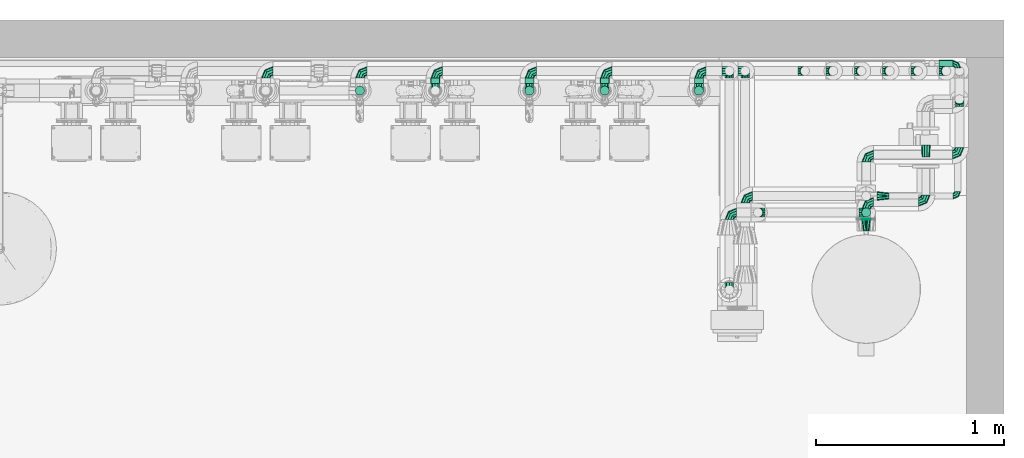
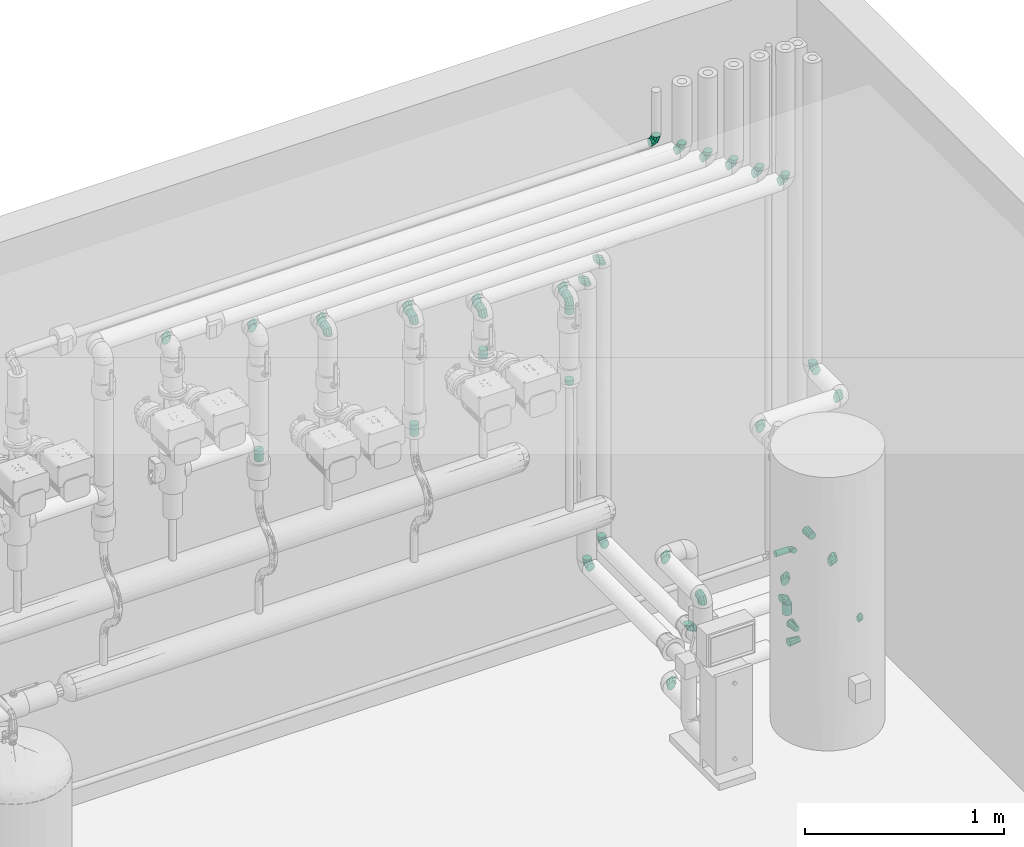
# One storey, part 89 of 94: 35 flow fittings, 12 flow segments.
"""IFC2X3 building model written with IfcOpenShell, lengths in millimetres."""

from ifc_helpers import new_model, entity, si_unit, converted_unit, derived_unit, direction, frame, frame_2d, origin, origin_2d_with_axis, place, context, subcontext, project, spatial, circle, extrude, faceted_brep, source, transform, mapped, material, type_object, type_shapes, element, save


model = new_model("IFC2X3")

# Units and contexts
model_context = context("Model", 3, precision=0.01, world=origin(), true_north=direction((6.123031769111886e-17, 1.0)))
body_context = subcontext(model_context, "Body", "Model", "MODEL_VIEW")
ifc_project = project(units=[si_unit("LENGTHUNIT", "METRE", prefix="MILLI"), si_unit("AREAUNIT", "SQUARE_METRE"), si_unit("VOLUMEUNIT", "CUBIC_METRE"), converted_unit("PLANEANGLEUNIT", "DEGREE", entity("IfcRatioMeasure", 0.017453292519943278), si_unit("PLANEANGLEUNIT", "RADIAN"), dimensions=[0, 0, 0, 0, 0, 0, 0]), si_unit("MASSUNIT", "GRAM", prefix="KILO"), derived_unit("MASSDENSITYUNIT", [(si_unit("MASSUNIT", "GRAM", prefix="KILO"), 1), (si_unit("LENGTHUNIT", "METRE"), -3)]), derived_unit("IONCONCENTRATIONUNIT", [(si_unit("MASSUNIT", "GRAM", prefix="KILO"), 1), (si_unit("LENGTHUNIT", "METRE"), -3)]), derived_unit("MOMENTOFINERTIAUNIT", [(si_unit("LENGTHUNIT", "METRE"), 4)]), si_unit("TIMEUNIT", "SECOND"), si_unit("FREQUENCYUNIT", "HERTZ"), si_unit("THERMODYNAMICTEMPERATUREUNIT", "DEGREE_CELSIUS"), derived_unit("THERMALTRANSMITTANCEUNIT", [(si_unit("MASSUNIT", "GRAM", prefix="KILO"), 1), (si_unit("THERMODYNAMICTEMPERATUREUNIT", "KELVIN"), -1), (si_unit("TIMEUNIT", "SECOND"), -3)]), derived_unit("THERMALCONDUCTANCEUNIT", [(si_unit("MASSUNIT", "GRAM", prefix="KILO"), 1), (si_unit("THERMODYNAMICTEMPERATUREUNIT", "KELVIN"), -1), (si_unit("TIMEUNIT", "SECOND"), -3), (si_unit("LENGTHUNIT", "METRE"), 1)]), derived_unit("VOLUMETRICFLOWRATEUNIT", [(si_unit("LENGTHUNIT", "METRE"), 3), (si_unit("TIMEUNIT", "SECOND"), -1)]), derived_unit("MASSFLOWRATEUNIT", [(si_unit("MASSUNIT", "GRAM", prefix="KILO"), 1), (si_unit("TIMEUNIT", "SECOND"), -1)]), derived_unit("ROTATIONALFREQUENCYUNIT", [(si_unit("TIMEUNIT", "SECOND"), -1)]), si_unit("ELECTRICCURRENTUNIT", "AMPERE"), si_unit("ELECTRICVOLTAGEUNIT", "VOLT"), si_unit("POWERUNIT", "WATT"), si_unit("FORCEUNIT", "NEWTON", prefix="KILO"), si_unit("ILLUMINANCEUNIT", "LUX"), si_unit("LUMINOUSFLUXUNIT", "LUMEN"), si_unit("LUMINOUSINTENSITYUNIT", "CANDELA"), derived_unit("USERDEFINED", [(si_unit("MASSUNIT", "GRAM", prefix="KILO"), -1), (si_unit("LENGTHUNIT", "METRE"), -2), (si_unit("TIMEUNIT", "SECOND"), 3), (si_unit("LUMINOUSFLUXUNIT", "LUMEN"), 1)]), derived_unit("USERDEFINED", [(si_unit("MASSUNIT", "GRAM", prefix="KILO"), 1), (si_unit("TIMEUNIT", "SECOND"), -3), (si_unit("LENGTHUNIT", "METRE"), 3), (si_unit("ELECTRICCURRENTUNIT", "AMPERE"), -2)]), derived_unit("SOUNDPOWERUNIT", [(si_unit("MASSUNIT", "GRAM", prefix="KILO"), 1), (si_unit("TIMEUNIT", "SECOND"), -3), (si_unit("LENGTHUNIT", "METRE"), 2)]), derived_unit("SOUNDPRESSUREUNIT", [(si_unit("MASSUNIT", "GRAM", prefix="KILO"), 1), (si_unit("LENGTHUNIT", "METRE"), -1), (si_unit("TIMEUNIT", "SECOND"), -2)]), derived_unit("LINEARVELOCITYUNIT", [(si_unit("LENGTHUNIT", "METRE"), 1), (si_unit("TIMEUNIT", "SECOND"), -1)]), si_unit("PRESSUREUNIT", "PASCAL"), derived_unit("USERDEFINED", [(si_unit("MASSUNIT", "GRAM", prefix="KILO"), 1), (si_unit("LENGTHUNIT", "METRE"), -2), (si_unit("TIMEUNIT", "SECOND"), -2)]), derived_unit("LINEARFORCEUNIT", [(si_unit("MASSUNIT", "GRAM", prefix="KILO"), 1), (si_unit("TIMEUNIT", "SECOND"), -2)]), derived_unit("PLANARFORCEUNIT", [(si_unit("MASSUNIT", "GRAM", prefix="KILO"), 1), (si_unit("LENGTHUNIT", "METRE"), -1), (si_unit("TIMEUNIT", "SECOND"), -2)]), derived_unit("SPECIFICHEATCAPACITYUNIT", [(si_unit("THERMODYNAMICTEMPERATUREUNIT", "KELVIN"), -1), (si_unit("LENGTHUNIT", "METRE"), 2), (si_unit("TIMEUNIT", "SECOND"), -2)]), derived_unit("HEATINGVALUEUNIT", [(si_unit("LENGTHUNIT", "METRE"), 2), (si_unit("TIMEUNIT", "SECOND"), -2)]), derived_unit("VAPORPERMEABILITYUNIT", [(si_unit("LENGTHUNIT", "METRE"), -1), (si_unit("TIMEUNIT", "SECOND"), 1)]), derived_unit("DYNAMICVISCOSITYUNIT", [(si_unit("MASSUNIT", "GRAM", prefix="KILO"), 1), (si_unit("TIMEUNIT", "SECOND"), -1), (si_unit("LENGTHUNIT", "METRE"), -1)]), derived_unit("THERMALEXPANSIONCOEFFICIENTUNIT", [(si_unit("THERMODYNAMICTEMPERATUREUNIT", "KELVIN"), -1)]), derived_unit("MODULUSOFELASTICITYUNIT", [(si_unit("MASSUNIT", "GRAM", prefix="KILO"), 1), (si_unit("LENGTHUNIT", "METRE"), -1), (si_unit("TIMEUNIT", "SECOND"), -2)]), derived_unit("ISOTHERMALMOISTURECAPACITYUNIT", [(si_unit("LENGTHUNIT", "METRE"), 3), (si_unit("MASSUNIT", "GRAM", prefix="KILO"), -1)]), derived_unit("MOISTUREDIFFUSIVITYUNIT", [(si_unit("TIMEUNIT", "SECOND"), -1), (si_unit("LENGTHUNIT", "METRE"), 2)])], contexts=[model_context])

# Site, building, storey
site_placement = place(None, origin())
site = spatial("IfcSite", under=ifc_project, at=site_placement, Name="Default", CompositionType="ELEMENT")
building_placement = place(site_placement, origin())
building = spatial("IfcBuilding", under=site, at=building_placement, CompositionType="ELEMENT")
storey_placement = place(building_placement, origin())
storey = spatial("IfcBuildingStorey", under=building, at=storey_placement, Name="Niveau 0", CompositionType="ELEMENT", Elevation=0.0)

# Flow segments
pipe_segment_type_1 = type_object("IfcPipeSegmentType", Name="Canalisation:Bride acier", PredefinedType="NOTDEFINED")
flow_segment_1_placement = place(storey_placement, origin())
element("IfcFlowSegment", 1, at=flow_segment_1_placement, inside=storey, type_object=pipe_segment_type_1, Name="Canalisation:Bride acier", ObjectType="Canalisation:Bride acier", context=body_context, shape_type="SweptSolid", body=[
    extrude(circle(Radius=24.13, at=origin_2d_with_axis()), frame((-8072.145865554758, 9960.470546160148, 2450.0), z_axis=(0.0, 1.0, 0.0), x_axis=(1.0, 0.0, 0.0)), (0.0, 0.0, 1.0), 28.375078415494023),
])
flow_segment_2_placement = place(storey_placement, origin())
element("IfcFlowSegment", 2, at=flow_segment_2_placement, inside=storey, type_object=pipe_segment_type_1, Name="Canalisation:Bride acier", ObjectType="Canalisation:Bride acier", context=body_context, shape_type="SweptSolid", body=[
    extrude(circle(Radius=24.13, at=origin_2d_with_axis()), frame((-8072.145865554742, 9922.470546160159, 1727.6034575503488)), (0.0, 0.0, 1.0), 70.12670509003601),
])
flow_segment_3_placement = place(storey_placement, origin())
element("IfcFlowSegment", 3, at=flow_segment_3_placement, inside=storey, type_object=pipe_segment_type_1, Name="Canalisation:Bride acier", ObjectType="Canalisation:Bride acier", context=body_context, shape_type="SweptSolid", body=[
    extrude(circle(Radius=24.13, at=origin_2d_with_axis()), frame((-8572.145865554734, 9960.470546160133, 2550.0), z_axis=(0.0, 1.0, 0.0), x_axis=(1.0, 0.0, 0.0)), (0.0, 0.0, 1.0), 28.375078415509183),
])
flow_segment_4_placement = place(storey_placement, origin())
element("IfcFlowSegment", 4, at=flow_segment_4_placement, inside=storey, type_object=pipe_segment_type_1, Name="Canalisation:Bride acier", ObjectType="Canalisation:Bride acier", context=body_context, shape_type="SweptSolid", body=[
    extrude(circle(Radius=24.13, at=frame_2d((0.0, -2.7071678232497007e-13), x_axis=(1.0, 0.0))), frame((-7672.1458655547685, 9960.470546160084, 2350.0), z_axis=(0.0, 1.0, 0.0), x_axis=(1.0, 0.0, 0.0)), (0.0, 0.0, 1.0), 28.37507841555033),
])
flow_segment_5_placement = place(storey_placement, origin())
element("IfcFlowSegment", 5, at=flow_segment_5_placement, inside=storey, type_object=pipe_segment_type_1, Name="Canalisation:Bride acier", ObjectType="Canalisation:Bride acier", context=body_context, shape_type="SweptSolid", body=[
    extrude(circle(Radius=24.13, at=origin_2d_with_axis()), frame((-7672.145865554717, 9922.470546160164, 2062.7301626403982)), (0.0, 0.0, 1.0), 51.48731568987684),
])
flow_segment_6_placement = place(storey_placement, origin())
element("IfcFlowSegment", 6, at=flow_segment_6_placement, inside=storey, type_object=pipe_segment_type_1, Name="Canalisation:Bride acier", ObjectType="Canalisation:Bride acier", context=body_context, shape_type="SweptSolid", body=[
    extrude(circle(Radius=24.13, at=frame_2d((0.0, -2.707167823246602e-13), x_axis=(1.0, 0.0))), frame((-7172.1458655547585, 9960.470546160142, 2250.0), z_axis=(0.0, 1.0, 0.0), x_axis=(1.0, 0.0, 0.0)), (0.0, 0.0, 1.0), 28.375078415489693),
])
flow_segment_7_placement = place(storey_placement, origin())
element("IfcFlowSegment", 7, at=flow_segment_7_placement, inside=storey, type_object=pipe_segment_type_1, Name="Canalisation:Bride acier", ObjectType="Canalisation:Bride acier", context=body_context, shape_type="SweptSolid", body=[
    extrude(circle(Radius=24.13, at=origin_2d_with_axis()), frame((-7172.145865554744, 9922.470546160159, 1727.60345755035)), (0.0, 0.0, 1.0), 25.126705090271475),
])
flow_segment_8_placement = place(storey_placement, origin())
element("IfcFlowSegment", 8, at=flow_segment_8_placement, inside=storey, type_object=pipe_segment_type_1, Name="Canalisation:Bride acier", ObjectType="Canalisation:Bride acier", context=body_context, shape_type="SweptSolid", body=[
    extrude(circle(Radius=24.13, at=origin_2d_with_axis()), frame((-6284.2344600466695, 9275.477679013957, 395.8782212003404)), (0.0, 0.0, 1.0), 65.12177879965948),
])
flow_segment_9_placement = place(storey_placement, origin())
element("IfcFlowSegment", 9, at=flow_segment_9_placement, inside=storey, type_object=pipe_segment_type_1, Name="Canalisation:Bride acier", ObjectType="Canalisation:Bride acier", context=body_context, shape_type="SweptSolid", body=[
    extrude(circle(Radius=24.13, at=origin_2d_with_axis()), frame((-7172.1458655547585, 9922.470546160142, 2159.217478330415)), (0.0, 0.0, 1.0), 52.78252166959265),
])
flow_segment_10_placement = place(storey_placement, origin())
element("IfcFlowSegment", 10, at=flow_segment_10_placement, inside=storey, type_object=pipe_segment_type_1, Name="Canalisation:Bride acier", ObjectType="Canalisation:Bride acier", context=body_context, shape_type="SweptSolid", body=[
    extrude(circle(Radius=24.13, at=origin_2d_with_axis()), frame((-6284.23446004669, 9237.47767933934, 357.87324837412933), z_axis=(0.0, 0.9999997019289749, -0.0007721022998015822), x_axis=(-1.0, 0.0, 0.0)), (0.0, 0.0, 1.0), 4.2071809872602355),
])
flow_segment_11_placement = place(storey_placement, origin())
element("IfcFlowSegment", 11, at=flow_segment_11_placement, inside=storey, type_object=pipe_segment_type_1, Name="Canalisation:Bride acier", ObjectType="Canalisation:Bride acier", context=body_context, shape_type="SweptSolid", body=[
    extrude(circle(Radius=24.13, at=origin_2d_with_axis()), frame((-8972.145865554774, 9922.470546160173, 1887.730162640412)), (0.0, 0.0, 1.0), 65.8598027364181),
])

# Flow fittings
ifc_material = material(Name="<Unnamed>")
pipe_fitting_type_1 = type_object("IfcPipeFittingType", Name="Coude - Générique:Standard", PredefinedType="NOTDEFINED", material=ifc_material)
shared_shape_1 = source(origin(), body_context, "Body", "Brep", [
    faceted_brep([(5.946686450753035, -5.946686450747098, 0.0), (2.6853405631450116, -2.685340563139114, -14.195013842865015), (19.537760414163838, 38.0, -14.195013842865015), (24.1500000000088, 38.0, 0.0), (-5.852973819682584, 5.852973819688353, -22.968014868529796), (7.462760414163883, 38.0, -22.968014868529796), (-16.40691081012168, 16.40691081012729, -22.96801486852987), (-7.462760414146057, 38.0, -22.96801486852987), (-24.94522519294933, 24.94522519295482, -14.195013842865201), (-19.537760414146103, 38.0, -14.195013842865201), (-28.206571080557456, 28.206571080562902, 0.0), (-24.149999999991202, 38.0, 0.0), (-24.945225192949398, 24.945225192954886, 14.195013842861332), (-19.5377604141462, 38.0, 14.195013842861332), (-16.406910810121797, 16.40691081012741, 22.968014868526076), (-7.462760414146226, 38.0, 22.968014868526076), (-5.852973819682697, 5.852973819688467, 22.968014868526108), (7.462760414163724, 38.0, 22.968014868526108), (2.6853405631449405, -2.685340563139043, 14.195013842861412), (19.53776041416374, 38.0, 14.195013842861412), (-38.0, -24.150000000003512, 0.0), (-38.0, -19.53776041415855, -14.195013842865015), (-38.0, -7.462760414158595, -22.968014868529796), (-38.0, 7.462760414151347, -22.96801486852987), (-38.0, 19.537760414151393, -14.195013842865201), (-38.0, 24.149999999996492, 0.0), (-38.0, 19.537760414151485, 14.195013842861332), (-38.0, 7.462760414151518, 22.968014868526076), (-38.0, -7.462760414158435, 22.968014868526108), (-38.0, -19.537760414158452, 14.195013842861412)], [[[0, 1, 2, 3]], [[1, 4, 5, 2]], [[4, 6, 7, 5]], [[6, 8, 9, 7]], [[8, 10, 11, 9]], [[10, 12, 13, 11]], [[12, 14, 15, 13]], [[14, 16, 17, 15]], [[16, 18, 19, 17]], [[18, 0, 3, 19]], [[20, 21, 1, 0]], [[21, 22, 4, 1]], [[22, 23, 6, 4]], [[23, 24, 8, 6]], [[24, 25, 10, 8]], [[25, 26, 12, 10]], [[26, 27, 14, 12]], [[27, 28, 16, 14]], [[28, 29, 18, 16]], [[29, 20, 0, 18]], [[3, 2, 5, 7, 9, 11, 13, 15, 17, 19]], [[29, 28, 27, 26, 25, 24, 23, 22, 21, 20]]]),
])
type_shapes(pipe_fitting_type_1, [shared_shape_1])
for number, where, z_axis, x_axis in (
    (12, (-6459.172313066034, 10026.845624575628, 2850.0), (0.0, -1.0, 0.0), (1.0, 0.0, 0.0)),
    (13, (-7672.145865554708, 10026.845624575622, 2350.0), (0.0, 0.0, 1.0), (-1.0, 0.0, 0.0)),
    (14, (-7172.145865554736, 10026.84562457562, 2250.0), (0.0, 0.0, 1.0), (-1.0, 0.0, 0.0)),
    (15, (-9472.145865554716, 10026.845624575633, 2750.0), (0.0, 0.0, 1.0), (-1.0, 0.0, 0.0)),
    (16, (-6309.1723130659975, 10026.845624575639, 2750.0), (0.0, 1.0, 0.0), (0.0, 0.0, -1.0)),
    (17, (-8972.145865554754, 10026.845624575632, 2650.0), (0.0, 0.0, 1.0), (-1.0, 0.0, 0.0)),
    (18, (-6159.172313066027, 10026.845624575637, 2650.0), (0.0, 1.0, 0.0), (0.0, 0.0, -1.0)),
    (19, (-8572.145865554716, 10026.845624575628, 2550.0), (0.0, 0.0, 1.0), (-1.0, 0.0, 0.0)),
    (20, (-6009.1723130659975, 10026.845624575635, 2550.0), (0.0, 1.0, 0.0), (0.0, 0.0, -1.0)),
    (21, (-8072.145865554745, 10026.845624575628, 2450.0), (0.0, 0.0, 1.0), (-1.0, 0.0, 0.0)),
    (22, (-5859.172313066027, 10026.845624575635, 2450.0), (0.0, 1.0, 0.0), (0.0, 0.0, -1.0)),
    (23, (-6926.740682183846, 10026.845624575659, 2350.0), (0.0, 1.0, 0.0), (1.0, 0.0, 0.0)),
    (24, (-6609.172313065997, 10026.845624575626, 2950.0), (0.0, 1.0, 0.0), (0.0, 0.0, -1.0)),
    (25, (-6926.7406821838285, 10026.845624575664, 608.0), (-1.0, 0.0, 0.0), (0.0, 0.0, -1.0)),
    (26, (-6926.7406821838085, 9362.933258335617, 144.0), (0.0, 0.0, 1.0), (-1.0, 0.0, 0.0)),
    (27, (-8572.145865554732, 9922.470546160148, 2550.0), (1.0, 0.0, 0.0), (0.0, -1.0, 0.0)),
    (28, (-7672.145865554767, 9922.4705461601, 2350.0), (1.0, 0.0, 0.0), (0.0, -1.0, 0.0)),
    (29, (-8072.145865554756, 9922.470546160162, 2450.0), (1.0, 0.0, 0.0), (0.0, -1.0, 0.0)),
    (30, (-7172.145865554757, 9922.470546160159, 2250.0), (1.0, 0.0, 0.0), (0.0, -1.0, 0.0)),
    (31, (-7010.740682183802, 10026.845624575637, 499.0), (1.0, 0.0, 0.0), (0.0, 1.0, 0.0)),
    (32, (-7010.74068218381, 10026.845624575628, 2250.0), (0.0, 1.0, 0.0), (1.0, 0.0, 0.0)),
    (33, (-6284.234460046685, 9275.477679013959, 499.0), (0.0, 1.0, 0.0), (1.0, 0.0, 0.0)),
    (34, (-6284.234460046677, 9582.083842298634, 1363.8700000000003), (-6.0565712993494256e-05, 0.0, 1.0), (-1.0, 0.0, -6.0565712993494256e-05)),
    (35, (-5788.904702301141, 9876.845624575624, 1363.9000000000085), (1.0, 0.0, 0.0), (0.0, 1.0, 0.0)),
):
    element("IfcFlowFitting", number, at=place(storey_placement, frame(where, z_axis=z_axis, x_axis=x_axis)), inside=storey, type_object=pipe_fitting_type_1, material=ifc_material, Name="Coude - Générique:Standard", ObjectType="Coude - Générique:Standard", context=body_context, shape_type="MappedRepresentation", body=[
        mapped(shared_shape_1, transform((0.0, 0.0, 0.0), scale=1.0)),
    ])
flow_fitting_1_placement = place(storey_placement, frame((-5788.904702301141, 9582.083842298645, 1363.8999999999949)))
element("IfcFlowFitting", 36, at=flow_fitting_1_placement, inside=storey, type_object=pipe_fitting_type_1, material=ifc_material, Name="Coude - Générique:Standard", ObjectType="Coude - Générique:Standard", context=body_context, shape_type="MappedRepresentation", body=[
    mapped(shared_shape_1, transform((0.0, 0.0, 0.0), scale=1.0)),
])
for number, where, z_axis, x_axis in (
    (37, (-6284.234851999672, 9331.653816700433, 578.8692095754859), (0.0, -4.47321487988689e-06, 1.0), (-1.0, 0.0, 0.0)),
    (38, (-6858.137252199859, 9275.477679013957, 499.0), (0.0, 1.0, 0.0), (-1.0, 0.0, 0.0)),
    (39, (-7010.7406821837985, 9275.477679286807, 999.9986682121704), (-1.4308974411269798e-06, 3.504704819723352e-05, 1.0), (-1.0, 0.0, -1.4308974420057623e-06)),
    (40, (-7010.740682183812, 8864.870419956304, 1000.0), (1.0, 0.0, 0.0), (0.0, -1.0, 0.0)),
    (41, (-5967.406962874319, 9331.654033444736, 578.8965813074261), (-9.816711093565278e-05, -1.606928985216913e-05, 0.9999999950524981), (0.9999999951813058, 7.773407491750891e-07, 9.816712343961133e-05)),
):
    element("IfcFlowFitting", number, at=place(storey_placement, frame(where, z_axis=z_axis, x_axis=x_axis)), inside=storey, type_object=pipe_fitting_type_1, material=ifc_material, Name="Coude - Générique:Standard", ObjectType="Coude - Générique:Standard", context=body_context, shape_type="MappedRepresentation", body=[
        mapped(shared_shape_1, transform((0.0, 0.0, 0.0), scale=1.0)),
    ])

# Flow segment
pipe_segment_type_2 = type_object("IfcPipeSegmentType", Name="Canalisation:Standard", PredefinedType="NOTDEFINED")
flow_segment_12_placement = place(storey_placement, origin())
element("IfcFlowSegment", 42, at=flow_segment_12_placement, inside=storey, type_object=pipe_segment_type_2, Name="Canalisation:Standard", ObjectType="Canalisation:Standard", context=body_context, shape_type="SweptSolid", body=[
    extrude(circle(Radius=16.7005, at=frame_2d((-8.662937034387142e-12, 0.0), x_axis=(1.0, 0.0))), frame((-5896.90298699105, 10067.197731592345, 144.0), z_axis=(1.0, 0.0, 0.0), x_axis=(0.0, 1.0, 0.0)), (0.0, 0.0, 1.0), 73.86974758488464),
])

# Flow fittings
pipe_fitting_type_2 = type_object("IfcPipeFittingType", Name="Transformation - Générique:Standard", PredefinedType="NOTDEFINED", material=ifc_material)
shared_shape_2 = source(origin(), body_context, "Body", "Brep", [
    faceted_brep([(64.0, -24.15000000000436, 0.0), (64.0, -21.843880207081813, -7.097506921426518), (64.0, -19.537760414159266, -14.195013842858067), (64.0, -16.5190104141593, -16.388264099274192), (64.0, -13.500260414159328, -18.58151435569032), (64.0, -7.462760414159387, -22.968014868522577), (64.0, 0.0, -22.968014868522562), (64.0, 7.462760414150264, -22.96801486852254), (64.0, 13.500260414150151, -18.58151435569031), (64.0, 19.537760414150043, -14.195013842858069), (64.0, 20.69082031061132, -10.646260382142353), (64.0, 21.843880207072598, -7.0975069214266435), (64.0, 24.14999999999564, 0.0), (64.0, 21.843880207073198, 7.097506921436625), (64.0, 19.537760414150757, 14.195013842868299), (64.0, 16.519010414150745, 16.38826409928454), (64.0, 13.500260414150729, 18.581514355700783), (64.0, 7.462760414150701, 22.96801486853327), (64.0, 0.0, 22.968014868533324), (64.0, -7.462760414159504, 22.96801486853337), (64.0, -13.50026041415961, 18.58151435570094), (64.0, -19.537760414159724, 14.19501384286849), (64.0, -20.690820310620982, 10.64626038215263), (64.0, -21.843880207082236, 7.097506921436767), (0.0, 16.69999999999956, 0.0), (0.0, 15.477170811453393, -2.952170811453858), (0.0, 14.254341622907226, -5.904341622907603), (0.0, 13.03151243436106, -8.856512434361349), (0.0, 11.808683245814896, -11.808683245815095), (0.0, 8.856512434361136, -13.031512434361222), (0.0, 5.904341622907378, -14.254341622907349), (0.0, 2.9521708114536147, -15.477170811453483), (0.0, 0.0, -16.699999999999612), (0.0, -2.9521708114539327, -15.47717081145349), (0.0, -5.904341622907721, -14.25434162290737), (0.0, -8.856512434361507, -13.031512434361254), (0.0, -11.808683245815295, -11.808683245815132), (0.0, -13.031512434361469, -8.856512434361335), (0.0, -14.254341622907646, -5.904341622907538), (0.0, -15.47717081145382, -2.952170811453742), (0.0, -16.700000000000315, 0.0), (0.0, -15.477170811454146, 2.9521708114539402), (0.0, -14.25434162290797, 5.904341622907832), (0.0, -13.031512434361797, 8.856512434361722), (0.0, -11.808683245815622, 11.808683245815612), (0.0, -8.856512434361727, 13.031512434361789), (0.0, -5.904341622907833, 14.254341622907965), (0.0, -2.952170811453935, 15.477170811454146), (0.0, 0.0, 16.700000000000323), (0.0, 2.952170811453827, 15.477170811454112), (0.0, 5.904341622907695, 14.254341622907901), (0.0, 8.856512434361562, 13.031512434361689), (0.0, 11.808683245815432, 11.808683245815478), (0.0, 13.031512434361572, 8.856512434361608), (0.0, 14.254341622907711, 5.904341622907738), (0.0, 15.47717081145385, 2.9521708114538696)], [[[0, 1, 2, 3, 4, 5, 6, 7, 8, 9, 10, 11, 12, 13, 14, 15, 16, 17, 18, 19, 20, 21, 22, 23]], [[24, 25, 26, 27, 28, 29, 30, 31, 32, 33, 34, 35, 36, 37, 38, 39, 40, 41, 42, 43, 44, 45, 46, 47, 48, 49, 50, 51, 52, 53, 54, 55]], [[9, 28, 27]], [[38, 2, 1]], [[36, 4, 3, 2]], [[26, 11, 10]], [[5, 4, 34]], [[6, 31, 7]], [[5, 33, 6]], [[6, 33, 32]], [[35, 34, 4, 36]], [[2, 38, 37, 36]], [[12, 25, 24]], [[28, 9, 8]], [[8, 30, 29, 28]], [[12, 11, 25]], [[0, 39, 1]], [[31, 30, 7]], [[31, 6, 32]], [[5, 34, 33]], [[39, 0, 40]], [[26, 25, 11]], [[9, 27, 10]], [[27, 26, 10]], [[30, 8, 7]], [[39, 38, 1]], [[21, 44, 43]], [[54, 14, 13]], [[52, 16, 15, 14]], [[42, 23, 22]], [[17, 16, 50]], [[18, 47, 19]], [[17, 49, 18]], [[18, 49, 48]], [[51, 50, 16, 52]], [[14, 54, 53, 52]], [[0, 41, 40]], [[44, 21, 20]], [[20, 46, 45, 44]], [[0, 23, 41]], [[12, 55, 13]], [[47, 46, 19]], [[47, 18, 48]], [[17, 50, 49]], [[55, 12, 24]], [[42, 41, 23]], [[21, 43, 22]], [[43, 42, 22]], [[46, 20, 19]], [[55, 54, 13]]]),
])
type_shapes(pipe_fitting_type_2, [shared_shape_2])
flow_fitting_2_placement = place(storey_placement, frame((-6284.234460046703, 9177.684859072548, 357.8700000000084), z_axis=(0.0, 0.0, 1.0), x_axis=(0.0, 1.0, 0.0)))
element("IfcFlowFitting", 43, at=flow_fitting_2_placement, inside=storey, type_object=pipe_fitting_type_2, material=ifc_material, Name="Transformation - Générique:Standard", ObjectType="Transformation - Générique:Standard", context=body_context, shape_type="MappedRepresentation", body=[
    mapped(shared_shape_2, transform((0.0, 0.0, 0.0), scale=1.0)),
])
pipe_fitting_type_3 = type_object("IfcPipeFittingType", Name="Coude - Générique:Standard", PredefinedType="NOTDEFINED", material=ifc_material)
shared_shape_3 = source(origin(), body_context, "Body", "Brep", [
    faceted_brep([(4.486352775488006, -4.486352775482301, 0.0), (1.0276695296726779, -1.0276695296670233, -11.808683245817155), (11.808683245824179, 25.0, -11.808683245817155), (16.70000000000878, 25.0, 0.0), (-7.322330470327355, 7.322330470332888, -16.700000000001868), (0.0, 25.0, -16.700000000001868), (-15.672330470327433, 15.672330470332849, -11.808683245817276), (-11.808683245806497, 25.0, -11.808683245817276), (-19.131013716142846, 19.13101371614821, 0.0), (-16.699999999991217, 25.0, 0.0), (-15.672330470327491, 15.672330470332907, 11.808683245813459), (-11.808683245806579, 25.0, 11.808683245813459), (-7.322330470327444, 7.322330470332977, 16.699999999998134), (0.0, 25.0, 16.699999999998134), (1.0276695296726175, -1.027669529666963, 11.808683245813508), (11.808683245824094, 25.0, 11.808683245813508), (-25.0, -16.700000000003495, 0.0), (-25.0, -11.808683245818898, -11.808683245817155), (-25.0, 0.0, -16.700000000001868), (-25.0, 11.808683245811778, -11.808683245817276), (-25.0, 16.699999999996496, 0.0), (-25.0, 11.80868324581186, 11.808683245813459), (-25.0, 0.0, 16.699999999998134), (-25.0, -11.808683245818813, 11.808683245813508)], [[[0, 1, 2, 3]], [[1, 4, 5, 2]], [[4, 6, 7, 5]], [[6, 8, 9, 7]], [[8, 10, 11, 9]], [[10, 12, 13, 11]], [[12, 14, 15, 13]], [[14, 0, 3, 15]], [[16, 17, 1, 0]], [[17, 18, 4, 1]], [[18, 19, 6, 4]], [[19, 20, 8, 6]], [[20, 21, 10, 8]], [[21, 22, 12, 10]], [[22, 23, 14, 12]], [[23, 16, 0, 14]], [[3, 2, 5, 7, 9, 11, 13, 15]], [[23, 22, 21, 20, 19, 18, 17, 16]]]),
])
type_shapes(pipe_fitting_type_3, [shared_shape_3])
flow_fitting_3_placement = place(storey_placement, frame((-5798.033239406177, 9362.93325833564, 144.0)))
element("IfcFlowFitting", 44, at=flow_fitting_3_placement, inside=storey, type_object=pipe_fitting_type_3, material=ifc_material, Name="Coude - Générique:Standard", ObjectType="Coude - Générique:Standard", context=body_context, shape_type="MappedRepresentation", body=[
    mapped(shared_shape_3, transform((0.0, 0.0, 0.0), scale=1.0)),
])
flow_fitting_4_placement = place(storey_placement, frame((-5798.033239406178, 10067.197731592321, 144.0), z_axis=(0.0, 0.0, 1.0), x_axis=(0.0, 1.0, 0.0)))
element("IfcFlowFitting", 45, at=flow_fitting_4_placement, inside=storey, type_object=pipe_fitting_type_3, material=ifc_material, Name="Coude - Générique:Standard", ObjectType="Coude - Générique:Standard", context=body_context, shape_type="MappedRepresentation", body=[
    mapped(shared_shape_3, transform((0.0, 0.0, 0.0), scale=1.0)),
])
pipe_fitting_type_4 = type_object("IfcPipeFittingType", Name="Transformation - Générique:Standard", PredefinedType="NOTDEFINED", material=ifc_material)
shared_shape_4 = source(origin(), body_context, "Body", "Brep", [
    faceted_brep([(64.0, 16.699999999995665, 0.0), (64.0, 15.477170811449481, 2.9521708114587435), (64.0, 14.254341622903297, 5.904341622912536), (64.0, 13.031512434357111, 8.85651243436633), (64.0, 11.808683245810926, 11.808683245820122), (64.0, 8.856512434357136, 13.031512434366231), (64.0, 5.9043416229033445, 14.25434162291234), (64.0, 2.952170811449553, 15.477170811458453), (64.0, 0.0, 16.700000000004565), (64.0, -2.9521708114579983, 15.477170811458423), (64.0, -5.904341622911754, 14.254341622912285), (64.0, -8.856512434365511, 13.031512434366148), (64.0, -11.808683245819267, 11.80868324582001), (64.0, -13.031512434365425, 8.856512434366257), (64.0, -14.254341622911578, 5.904341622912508), (64.0, -15.477170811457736, 2.9521708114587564), (64.0, -16.700000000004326, 0.0), (64.0, -15.477170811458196, -2.9521708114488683), (64.0, -14.254341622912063, -5.9043416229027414), (64.0, -13.031512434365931, -8.856512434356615), (64.0, -11.808683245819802, -11.80868324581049), (64.0, -8.856512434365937, -13.03151243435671), (64.0, -5.904341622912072, -14.254341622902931), (64.0, -2.9521708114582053, -15.477170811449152), (64.0, 0.0, -16.699999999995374), (64.0, 2.952170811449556, -15.477170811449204), (64.0, 5.904341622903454, -14.25434162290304), (64.0, 8.856512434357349, -13.031512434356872), (64.0, 11.808683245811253, -11.808683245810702), (64.0, 13.031512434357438, -8.85651243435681), (64.0, 14.254341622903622, -5.904341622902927), (64.0, 15.477170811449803, -2.952170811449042), (0.0, 13.500260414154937, 18.581514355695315), (0.0, 19.537760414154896, 14.195013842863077), (0.0, 20.690820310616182, 10.646260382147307), (0.0, 21.843880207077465, 7.097506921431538), (0.0, 24.150000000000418, 0.0), (0.0, 21.843880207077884, -7.097506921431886), (0.0, 19.537760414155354, -14.195013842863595), (0.0, 13.500260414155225, -18.58151435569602), (0.0, 7.4627604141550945, -22.96801486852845), (0.0, 0.0, -22.96801486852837), (0.0, -7.4627604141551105, -22.968014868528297), (0.0, -13.500260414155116, -18.581514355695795), (0.0, -19.537760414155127, -14.195013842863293), (0.0, -20.690820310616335, -10.646260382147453), (0.0, -21.84388020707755, -7.0975069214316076), (0.0, -24.149999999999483, 0.0), (0.0, -21.84388020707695, 7.097506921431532), (0.0, -19.53776041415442, 14.195013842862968), (0.0, -13.50026041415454, 18.581514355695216), (0.0, -7.462760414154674, 22.968014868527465), (0.0, 0.0, 22.968014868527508), (0.0, 7.462760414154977, 22.96801486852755)], [[[0, 1, 2, 3, 4, 5, 6, 7, 8, 9, 10, 11, 12, 13, 14, 15, 16, 17, 18, 19, 20, 21, 22, 23, 24, 25, 26, 27, 28, 29, 30, 31]], [[32, 33, 34, 35, 36, 37, 38, 39, 40, 41, 42, 43, 44, 45, 46, 47, 48, 49, 50, 51, 52, 53]], [[44, 20, 19]], [[39, 38, 28]], [[18, 46, 45]], [[39, 28, 27, 26]], [[36, 31, 37]], [[26, 40, 39]], [[41, 25, 24]], [[29, 28, 38, 30]], [[20, 44, 43]], [[23, 41, 24]], [[47, 17, 16]], [[30, 38, 37]], [[43, 22, 21, 20]], [[17, 47, 46]], [[41, 23, 42]], [[40, 25, 41]], [[40, 26, 25]], [[23, 22, 42]], [[31, 36, 0]], [[18, 17, 46]], [[44, 19, 45]], [[19, 18, 45]], [[22, 43, 42]], [[31, 30, 37]], [[33, 4, 3]], [[50, 49, 12]], [[2, 35, 34]], [[50, 12, 11, 10]], [[47, 15, 48]], [[10, 51, 50]], [[52, 9, 8]], [[13, 12, 49, 14]], [[4, 33, 32]], [[7, 52, 8]], [[36, 1, 0]], [[14, 49, 48]], [[32, 6, 5, 4]], [[1, 36, 35]], [[52, 7, 53]], [[51, 9, 52]], [[51, 10, 9]], [[7, 6, 53]], [[15, 47, 16]], [[2, 1, 35]], [[33, 3, 34]], [[3, 2, 34]], [[6, 32, 53]], [[15, 14, 48]]]),
])
type_shapes(pipe_fitting_type_4, [shared_shape_4])
flow_fitting_5_placement = place(storey_placement, frame((-6227.234460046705, 9362.93325833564, 144.0)))
element("IfcFlowFitting", 46, at=flow_fitting_5_placement, inside=storey, type_object=pipe_fitting_type_4, material=ifc_material, Name="Transformation - Générique:Standard", ObjectType="Transformation - Générique:Standard", context=body_context, shape_type="MappedRepresentation", body=[
    mapped(shared_shape_4, transform((0.0, 0.0, 0.0), scale=1.0)),
])
pipe_fitting_type_5 = type_object("IfcPipeFittingType", Name="Transformation - Générique:Standard", PredefinedType="NOTDEFINED", material=ifc_material)
shared_shape_5 = source(origin(), body_context, "Body", "Brep", [
    faceted_brep([(64.0, -21.100000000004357, 0.0), (64.0, -19.08512929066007, -6.201134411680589), (64.0, -17.070258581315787, -12.402268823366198), (64.0, -11.795258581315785, -16.23478065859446), (64.0, -6.520258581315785, -20.067292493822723), (64.0, 0.0, -20.067292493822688), (64.0, 6.52025858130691, -20.067292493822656), (64.0, 11.795258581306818, -16.23478065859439), (64.0, 17.070258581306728, -12.402268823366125), (64.0, 19.085129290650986, -6.201134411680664), (64.0, 21.099999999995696, 0.0), (64.0, 19.085129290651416, 6.201134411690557), (64.0, 17.070258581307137, 12.402268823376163), (64.0, 11.795258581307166, 16.23478065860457), (64.0, 6.5202585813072, 20.067292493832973), (64.0, 0.0, 20.067292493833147), (64.0, -6.520258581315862, 20.067292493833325), (64.0, -11.795258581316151, 16.234780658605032), (64.0, -17.07025858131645, 12.402268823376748), (64.0, -19.085129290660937, 6.201134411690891), (0.0, -19.537760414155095, -14.195013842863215), (0.0, -21.01363081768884, -9.652751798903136), (0.0, -22.489501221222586, -5.110489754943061), (0.0, -24.150000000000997, 0.0), (0.0, -21.843880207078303, 7.097506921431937), (0.0, -19.537760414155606, 14.195013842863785), (0.0, -13.500260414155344, 18.58151435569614), (0.0, -7.462760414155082, 22.968014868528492), (0.0, 0.0, 22.968014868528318), (0.0, 7.462760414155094, 22.96801486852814), (0.0, 13.500260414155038, 18.58151435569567), (0.0, 19.537760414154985, 14.195013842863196), (0.0, 21.013630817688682, 9.652751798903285), (0.0, 22.48950122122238, 5.110489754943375), (0.0, 24.14999999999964, 0.0), (0.0, 21.843880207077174, -7.097506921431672), (0.0, 19.537760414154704, -14.195013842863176), (0.0, 13.500260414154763, -18.581514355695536), (0.0, 7.46276041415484, -22.968014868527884), (0.0, 0.0, -22.96801486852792), (0.0, -7.462760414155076, -22.96801486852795), (0.0, -13.500260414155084, -18.58151435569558)], [[[0, 1, 2, 3, 4, 5, 6, 7, 8, 9, 10, 11, 12, 13, 14, 15, 16, 17, 18, 19]], [[20, 21, 22, 23, 24, 25, 26, 27, 28, 29, 30, 31, 32, 33, 34, 35, 36, 37, 38, 39, 40, 41]], [[9, 8, 36, 35, 34, 10]], [[39, 38, 6, 5, 4, 40]], [[38, 37, 36, 8, 7, 6]], [[4, 3, 2, 20, 41, 40]], [[21, 20, 2, 1, 0, 23, 22]], [[19, 18, 25, 24, 23, 0]], [[28, 27, 16, 15, 14, 29]], [[27, 26, 25, 18, 17, 16]], [[14, 13, 12, 31, 30, 29]], [[32, 31, 12, 11, 10, 34, 33]]]),
])
type_shapes(pipe_fitting_type_5, [shared_shape_5])
flow_fitting_6_placement = place(storey_placement, frame((-5967.407363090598, 9633.759146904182, 578.8928509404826), z_axis=(0.0, 0.0, 1.0), x_axis=(7.77340808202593e-07, -1.0, 0.0)))
element("IfcFlowFitting", 47, at=flow_fitting_6_placement, inside=storey, type_object=pipe_fitting_type_5, material=ifc_material, Name="Transformation - Générique:Standard", ObjectType="Transformation - Générique:Standard", context=body_context, shape_type="MappedRepresentation", body=[
    mapped(shared_shape_5, transform((0.0, 0.0, 0.0), scale=1.0)),
])

save(model, "model.ifc")
